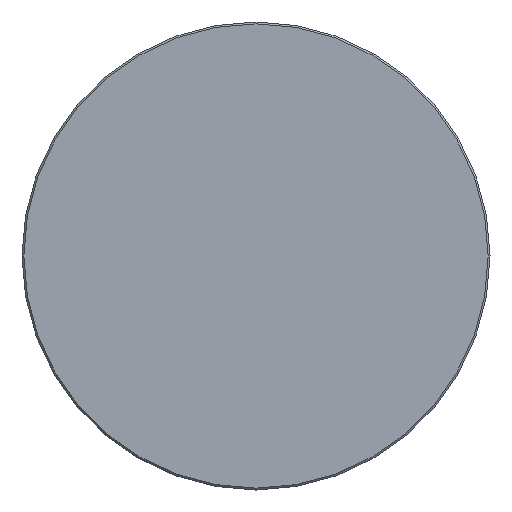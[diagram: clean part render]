
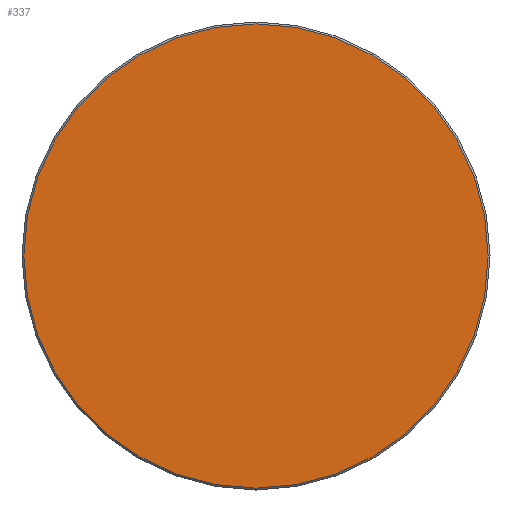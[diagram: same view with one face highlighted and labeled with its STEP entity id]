
A CAD part, left-side view. The second image highlights one B-rep face of the part: STEP entity #337.
In plain terms, the highlighted planar face has unit normal (-1, 0, 0).
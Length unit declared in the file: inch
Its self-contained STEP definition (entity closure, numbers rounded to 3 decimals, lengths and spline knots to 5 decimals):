
#5 = DIRECTION ( 'NONE',  ( -1., 0., 0. ) ) ;
#83 = DIRECTION ( 'NONE',  ( -1., 0., 0. ) ) ;
#124 = AXIS2_PLACEMENT_3D ( 'NONE', #257, #83, #290 ) ;
#131 = AXIS2_PLACEMENT_3D ( 'NONE', #356, #271, #300 ) ;
#133 = EDGE_CURVE ( 'NONE', #139, #187, #234, .T. ) ;
#139 = VERTEX_POINT ( 'NONE', #207 ) ;
#142 = FACE_OUTER_BOUND ( 'NONE', #210, .T. ) ;
#152 = AXIS2_PLACEMENT_3D ( 'NONE', #250, #5, #331 ) ;
#165 = PLANE ( 'NONE',  #131 ) ;
#174 = ORIENTED_EDGE ( 'NONE', *, *, #133, .T. ) ;
#187 = VERTEX_POINT ( 'NONE', #342 ) ;
#207 = CARTESIAN_POINT ( 'NONE',  ( 0., -0.496, 0. ) ) ;
#210 = EDGE_LOOP ( 'NONE', ( #225, #174 ) ) ;
#225 = ORIENTED_EDGE ( 'NONE', *, *, #368, .T. ) ;
#234 = CIRCLE ( 'NONE', #124, 0.496 ) ;
#250 = CARTESIAN_POINT ( 'NONE',  ( 0., 0., 0. ) ) ;
#257 = CARTESIAN_POINT ( 'NONE',  ( 0., 0., 0. ) ) ;
#271 = DIRECTION ( 'NONE',  ( -1., 0., 0. ) ) ;
#290 = DIRECTION ( 'NONE',  ( 0., -1., 0. ) ) ;
#300 = DIRECTION ( 'NONE',  ( 0., -1., 0. ) ) ;
#309 = CIRCLE ( 'NONE', #152, 0.496 ) ;
#331 = DIRECTION ( 'NONE',  ( 0., -1., 0. ) ) ;
#337 = ADVANCED_FACE ( 'NONE', ( #142 ), #165, .T. ) ;
#342 = CARTESIAN_POINT ( 'NONE',  ( 0., 0.496, 0. ) ) ;
#356 = CARTESIAN_POINT ( 'NONE',  ( 0., 0., 0. ) ) ;
#368 = EDGE_CURVE ( 'NONE', #187, #139, #309, .T. ) ;
